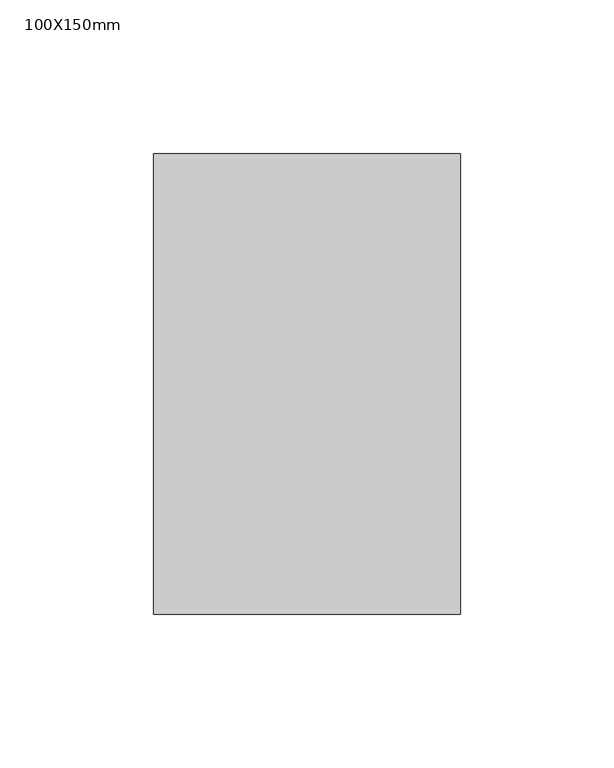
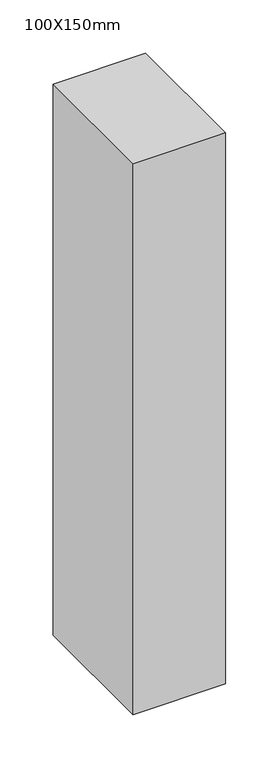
"""IFC4 building model written with IfcOpenShell, lengths in millimetres: member geometry, 矩形竖梃 : 100X150mm."""

from ifc_helpers import new_model, si_unit, frame, origin, place, context, project, spatial, polyline, outline, extrude, source, transform, mapped, element, save


def member_100x150mm_cb2e744a(model_context):
    return source(origin(), model_context, "Body", "SweptSolid", [
        extrude(outline(polyline([(50.0, 75.0), (50.0, -75.0), (-50.0, -75.0), (-50.0, 75.0), (50.0, 75.0)])), frame((0.0, 0.0, -630.0), z_axis=(0.0, 0.0, 1.0), x_axis=(1.0, 0.0, 0.0)), (0.0, 0.0, 1.0), 630.0),
    ])


if __name__ == "__main__":
    model = new_model("IFC4")
    model_context = context("Model", 3, world=origin())
    ifc_project = project(units=[si_unit("LENGTHUNIT", "METRE", prefix="MILLI")], contexts=[model_context])
    site = spatial("IfcSite", under=ifc_project)
    building = spatial("IfcBuilding", under=site)
    placement = place(None, origin())
    member_100x150mm_shape = member_100x150mm_cb2e744a(model_context)
    element("IfcMember", 1, ObjectType="矩形竖梃 : 100X150mm", at=placement, inside=building, context=model_context, shape_type="MappedRepresentation", body=[
        mapped(member_100x150mm_shape, transform((0.0, 0.0, 0.0), x_axis=(1.0, 0.0, 0.0), y_axis=(0.0, 1.0, 0.0), z_axis=(0.0, 0.0, 1.0))),
    ])
    save(model, "model.ifc")
